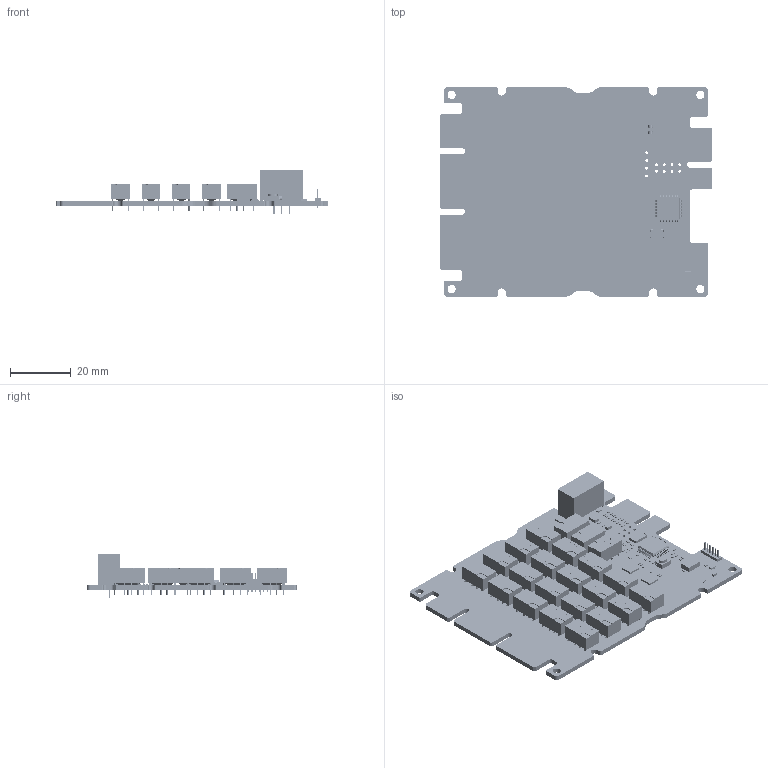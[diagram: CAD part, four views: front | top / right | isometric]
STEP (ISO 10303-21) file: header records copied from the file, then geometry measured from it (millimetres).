
FILE_DESCRIPTION(('Open CASCADE Model'),'2;1');
FILE_NAME('Open CASCADE Shape Model','2026-08-19T14:22:07',('Author'),( 'Open CASCADE'),'Open CASCADE STEP processor 7.5','Open CASCADE 7.5' ,'Unknown');
FILE_SCHEMA(('AUTOMOTIVE_DESIGN { 1 0 10303 214 1 1 1 1 }'));
Length unit declared in the file: millimetre
Products named in the file (231): Open CASCADE STEP translator 7.5 2423; Open CASCADE STEP translator 7.5 2424; Open CASCADE STEP translator 7.5 2425; Open CASCADE STEP translator 7.5 2426; Open CASCADE STEP translator 7.5 2427; Open CASCADE STEP translator 7.5 2428; Open CASCADE STEP translator 7.5 2429; Open CASCADE STEP translator 7.5 2430; Open CASCADE STEP translator 7.5 2431; Open CASCADE STEP translator 7.5 2432; Open CASCADE STEP translator 7.5 2433; Open CASCADE STEP translator 7.5 2434; Open CASCADE STEP translator 7.5 2435; Open CASCADE STEP translator 7.5 2436; Open CASCADE STEP translator 7.5 2437; Open CASCADE STEP translator 7.5 2438; Open CASCADE STEP translator 7.5 2439; Open CASCADE STEP translator 7.5 2440; Open CASCADE STEP translator 7.5 2441; Open CASCADE STEP translator 7.5 2442; Open CASCADE STEP translator 7.5 2443; Open CASCADE STEP translator 7.5 2444; Open CASCADE STEP translator 7.5 2445; Open CASCADE STEP translator 7.5 2446; Open CASCADE STEP translator 7.5 2447; Open CASCADE STEP translator 7.5 2448; Open CASCADE STEP translator 7.5 2449; Open CASCADE STEP translator 7.5 2450; Open CASCADE STEP translator 7.5 2451; Open CASCADE STEP translator 7.5 2452; Open CASCADE STEP translator 7.5 2453; Open CASCADE STEP translator 7.5 2454; Open CASCADE STEP translator 7.5 2455; Open CASCADE STEP translator 7.5 2456; Open CASCADE STEP translator 7.5 2457; Open CASCADE STEP translator 7.5 2458; Open CASCADE STEP translator 7.5 2459; Open CASCADE STEP translator 7.5 2460; Open CASCADE STEP translator 7.5 2461; Open CASCADE STEP translator 7.5 2462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
Bounding box: 90 x 69 x 14.2 mm (x, y, z)
Volume: 17365.8 mm3; surface area: 21810.2 mm2
Topology: 298 solids, 298 shells, 7713 faces, 19244 edges, 12784 vertices
Faces by surface type: plane 5272, bspline 1476, cylinder 929, sphere 24, torus 8, cone 4
Full cylindrical faces by diameter (mm): 0.08 x1, 0.289 x1, 0.3 x6, 0.5 x3, 0.6 x6, 0.75 x184, 0.9 x12, 0.94 x3, 1.4 x1, 1.6 x2, 2.7 x4
Entity records: 361599 total; most frequent: CARTESIAN_POINT 142497, ORIENTED_EDGE 38488, DIRECTION 30627, EDGE_CURVE 19244, LINE 14419, VECTOR 14419, VERTEX_POINT 12784, FACE_BOUND 8788
